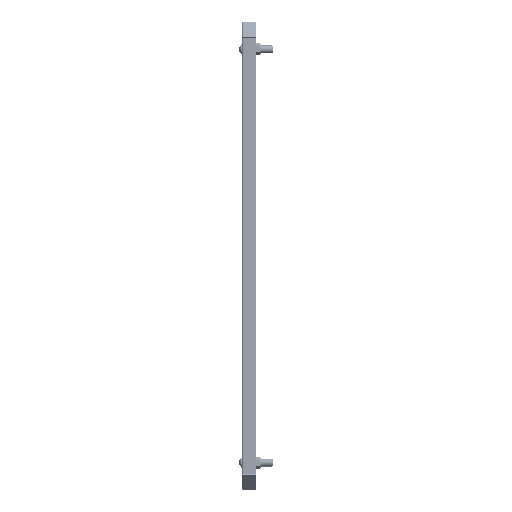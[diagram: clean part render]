
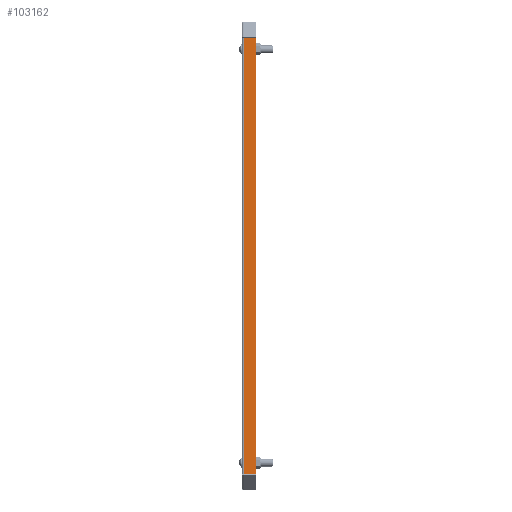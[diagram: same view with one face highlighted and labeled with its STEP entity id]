
A CAD part, left-side view. The second image highlights one B-rep face of the part: STEP entity #103162.
In plain terms, the highlighted planar face has unit normal (-1, 0, 0).
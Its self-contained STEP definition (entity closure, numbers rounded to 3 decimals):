
#1348 = ORIENTED_EDGE ( 'NONE', *, *, #105978, .F. ) ;
#1351 = ORIENTED_EDGE ( 'NONE', *, *, #105970, .F. ) ;
#1352 = ORIENTED_EDGE ( 'NONE', *, *, #105987, .T. ) ;
#1357 = ORIENTED_EDGE ( 'NONE', *, *, #105985, .F. ) ;
#13618 = EDGE_LOOP ( 'NONE', ( #1351, #1352, #1348, #1357 ) ) ;
#54487 = VERTEX_POINT ( 'NONE', #64159 ) ;
#54491 = VERTEX_POINT ( 'NONE', #64161 ) ;
#54498 = VERTEX_POINT ( 'NONE', #64164 ) ;
#54502 = VERTEX_POINT ( 'NONE', #64166 ) ;
#64159 = CARTESIAN_POINT ( 'NONE',  ( -300., -2.4, -279.395 ) ) ;
#64161 = CARTESIAN_POINT ( 'NONE',  ( -300., -2.4, 279.395 ) ) ;
#64164 = CARTESIAN_POINT ( 'NONE',  ( -300., -18., -279.395 ) ) ;
#64166 = CARTESIAN_POINT ( 'NONE',  ( -300., -18., 279.395 ) ) ;
#103162 = ADVANCED_FACE ( 'NONE', ( #106736 ), #111331, .F. ) ;
#105970 = EDGE_CURVE ( 'NONE', #54487, #54491, #117261, .T. ) ;
#105978 = EDGE_CURVE ( 'NONE', #54502, #54498, #117273, .T. ) ;
#105985 = EDGE_CURVE ( 'NONE', #54491, #54502, #117282, .T. ) ;
#105987 = EDGE_CURVE ( 'NONE', #54487, #54498, #117285, .T. ) ;
#106736 = FACE_OUTER_BOUND ( 'NONE', #13618, .T. ) ;
#106743 = AXIS2_PLACEMENT_3D ( 'NONE', #111332, #111333, #111334 ) ;
#111331 = PLANE ( 'NONE',  #106743 ) ;
#111332 = CARTESIAN_POINT ( 'NONE',  ( -300., -18., 280. ) ) ;
#111333 = DIRECTION ( 'NONE',  ( 1., 0., 0. ) ) ;
#111334 = DIRECTION ( 'NONE',  ( 0., 1., 0. ) ) ;
#117261 = LINE ( 'NONE', #117262, #119698 ) ;
#117262 = CARTESIAN_POINT ( 'NONE',  ( -300., -2.4, 280. ) ) ;
#117263 = DIRECTION ( 'NONE',  ( 0., 0., 1. ) ) ;
#117273 = LINE ( 'NONE', #117274, #119702 ) ;
#117274 = CARTESIAN_POINT ( 'NONE',  ( -300., -18., 280. ) ) ;
#117275 = DIRECTION ( 'NONE',  ( 0., 0., -1. ) ) ;
#117282 = LINE ( 'NONE', #117283, #119706 ) ;
#117283 = CARTESIAN_POINT ( 'NONE',  ( -300., -1.2, 279.395 ) ) ;
#117284 = DIRECTION ( 'NONE',  ( 0., -1., 0. ) ) ;
#117285 = LINE ( 'NONE', #117286, #119708 ) ;
#117286 = CARTESIAN_POINT ( 'NONE',  ( -300., -18., -279.395 ) ) ;
#117287 = DIRECTION ( 'NONE',  ( 0., -1., 0. ) ) ;
#119698 = VECTOR ( 'NONE', #117263, 1000. ) ;
#119702 = VECTOR ( 'NONE', #117275, 1000. ) ;
#119706 = VECTOR ( 'NONE', #117284, 1000. ) ;
#119708 = VECTOR ( 'NONE', #117287, 1000. ) ;
